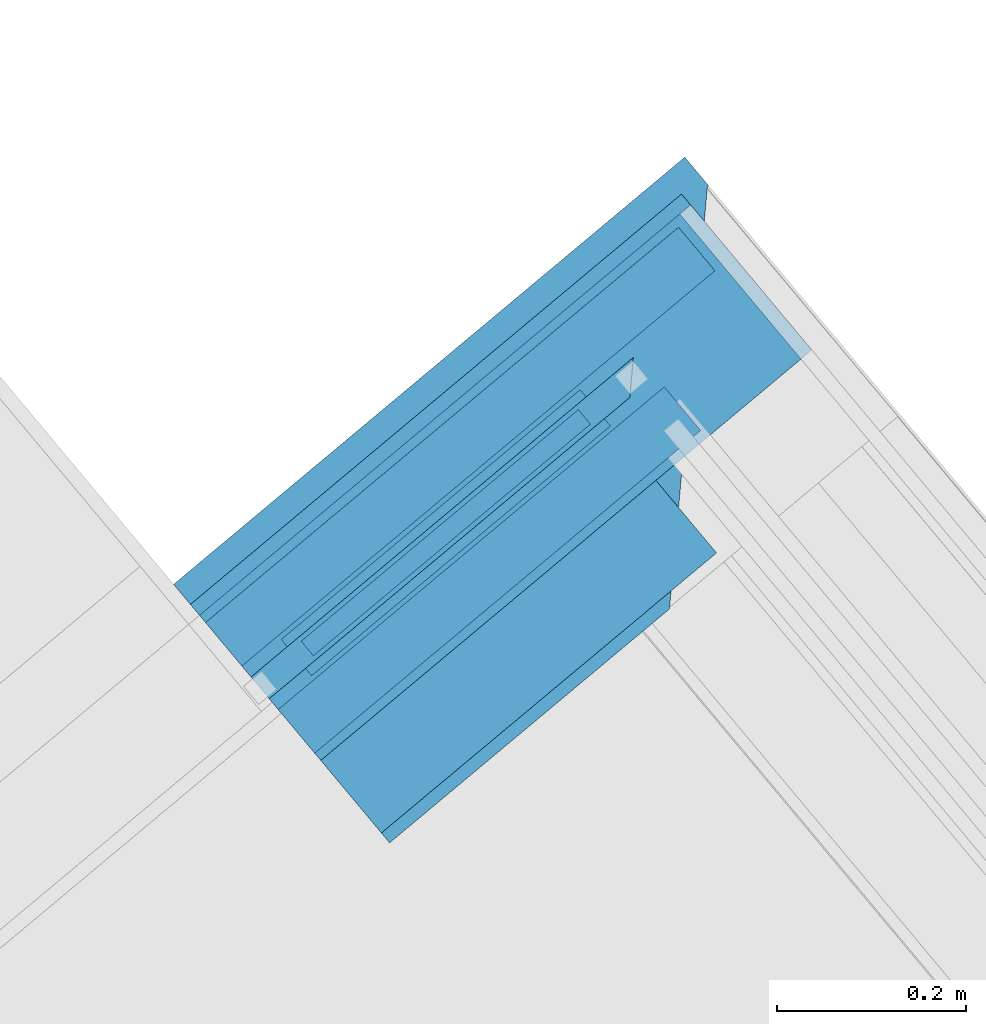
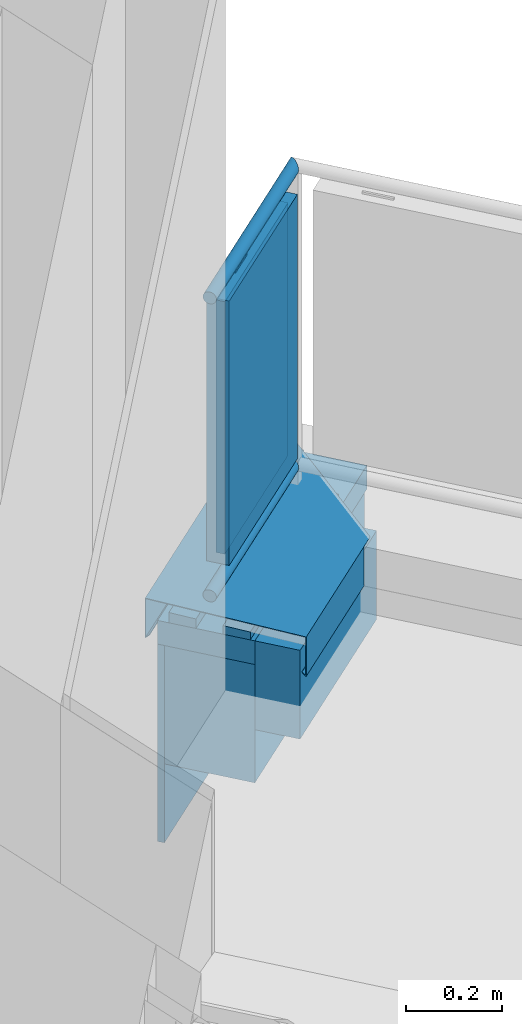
# One storey, part 46 of 53: 11 building element parts, 2 elements without a shape of their own.
"""IFC4 building model written with IfcOpenShell, lengths in metres."""

from ifc_helpers import new_model, entity, si_unit, converted_unit, derived_unit, direction, frame, origin_with_axes, place, context, subcontext, project, spatial, polygons, material, type_object, element, aggregate, save


model = new_model("IFC4")

# Units and contexts
model_context = context("Model", 3, precision=1e-05, world=origin_with_axes(), true_north=direction((0.0, 1.0)))
body_context = subcontext(model_context, "Body", "Model", "MODEL_VIEW")
ifc_project = project(units=[si_unit("LENGTHUNIT", "METRE"), si_unit("AREAUNIT", "SQUARE_METRE"), si_unit("VOLUMEUNIT", "CUBIC_METRE"), converted_unit("PLANEANGLEUNIT", "DEGREE", entity("IfcPlaneAngleMeasure", 0.0174532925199), si_unit("PLANEANGLEUNIT", "RADIAN"), dimensions=[0, 0, 0, 0, 0, 0, 0]), converted_unit("TIMEUNIT", "Year", entity("IfcTimeMeasure", 31556926.0), si_unit("TIMEUNIT", "SECOND"), dimensions=[0, 0, 1, 0, 0, 0, 0]), si_unit("MASSUNIT", "GRAM", prefix="KILO"), si_unit("THERMODYNAMICTEMPERATUREUNIT", "DEGREE_CELSIUS"), si_unit("LUMINOUSINTENSITYUNIT", "LUMEN"), si_unit("ENERGYUNIT", "JOULE", prefix="MEGA"), derived_unit("THERMALCONDUCTANCEUNIT", [(si_unit("POWERUNIT", "WATT"), 1), (si_unit("LENGTHUNIT", "METRE"), -1), (si_unit("THERMODYNAMICTEMPERATUREUNIT", "KELVIN"), -1)]), derived_unit("SPECIFICHEATCAPACITYUNIT", [(si_unit("ENERGYUNIT", "JOULE"), 1), (si_unit("MASSUNIT", "GRAM", prefix="KILO"), -1), (si_unit("THERMODYNAMICTEMPERATUREUNIT", "KELVIN"), -1)]), derived_unit("MASSDENSITYUNIT", [(si_unit("MASSUNIT", "GRAM", prefix="KILO"), 1), (si_unit("VOLUMEUNIT", "CUBIC_METRE"), -1)])], contexts=[model_context])

# Site, building, storey
site_placement = place(None, frame((-0.00153261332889, -0.00661245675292, 0.0), z_axis=(0.0, 0.0, 1.0), x_axis=(1.0, 0.0, 0.0)))
site = spatial("IfcSite", under=ifc_project, at=site_placement, Name="Gelände", CompositionType="ELEMENT")
building_placement = place(site_placement, origin_with_axes())
building = spatial("IfcBuilding", under=site, at=building_placement, Name="Gebäude", CompositionType="ELEMENT")
storey_placement = place(building_placement, frame((0.0, 0.0, 2.74), z_axis=(0.0, 0.0, 1.0), x_axis=(1.0, 0.0, 0.0)))
storey = spatial("IfcBuildingStorey", under=building, at=storey_placement, Name="OG1", CompositionType="ELEMENT", Elevation=2.74)

# Wall, building element parts
wall_type = type_object("IfcWallType", Name="Bauteil - Attika Balkon 356 x 610", PredefinedType="NOTDEFINED")
wall_placement = place(storey_placement, frame((10.2419035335, 25.5187648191, -0.2), z_axis=(0.0, 0.0, 1.0), x_axis=(0.767364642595, 0.641210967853, 0.0)))
wall = element("IfcWall", 1, at=wall_placement, inside=storey, type_object=wall_type, Name="Wand-003", PredefinedType="NOTDEFINED")
ifc_material_1 = material(Name="Zementputz")
building_element_part_1_placement = place(wall_placement, origin_with_axes())
building_element_part_1 = element("IfcBuildingElementPart", 2, at=building_element_part_1_placement, material=ifc_material_1, Name="Zementputz", PredefinedType="NOTDEFINED", context=body_context, shape_type="Tessellation", body=[
    polygons([(0.676930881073, 0.199999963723, 0.200000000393), (0.676930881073, 0.199999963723, 0.499999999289), (0.0, 0.199999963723, 0.500000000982), (0.0, 0.199999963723, 0.200000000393), (0.676930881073, 0.199999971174, 0.0), (0.6769309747, 0.214999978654, 0.0), (0.6769309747, 0.214999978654, 0.499999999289), (0.0, 0.214999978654, 0.500000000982), (0.0, 0.214999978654, 0.0), (0.0, 0.199999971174, 0.0)], [[[1, 2, 3, 4]], [[2, 1, 5, 6, 7]], [[2, 7, 8, 3]], [[3, 8, 9, 10, 4]], [[5, 1, 4, 10]], [[6, 5, 10, 9]], [[7, 6, 9, 8]]], closed=True),
])
ifc_material_2 = material(Name="Vollholz")
building_element_part_2_placement = place(wall_placement, origin_with_axes())
building_element_part_2 = element("IfcBuildingElementPart", 3, at=building_element_part_2_placement, material=ifc_material_2, Name="Vollholz", PredefinedType="NOTDEFINED", context=body_context, shape_type="Tessellation", body=[
    polygons([(0.651926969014, 0.189996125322, 0.584015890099), (0.651926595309, 0.130124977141, 0.584015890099), (0.651937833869, 0.130124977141, 0.581921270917), (0.651938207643, 0.190007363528, 0.581921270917), (0.651915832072, 0.189984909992, 0.586106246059), (0.0, 0.130124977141, 0.584015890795), (0.0, 0.130124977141, 0.560000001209), (0.652055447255, 0.130124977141, 0.559999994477), (0.651971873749, 0.130124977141, 0.575576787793), (0.651949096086, 0.130124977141, 0.57982217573), (0.651949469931, 0.190018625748, 0.57982217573), (0.651972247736, 0.190041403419, 0.575576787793), (0.652055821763, 0.190124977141, 0.559999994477), (0.0, 0.190124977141, 0.560000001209), (0.0, 0.189984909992, 0.586106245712)], [[[1, 2, 3, 4]], [[5, 2, 1]], [[3, 2, 6, 7, 8, 9, 10]], [[4, 3, 10, 11]], [[5, 1, 4, 11, 12, 13, 14, 15]], [[2, 5, 15, 6]], [[6, 15, 14, 7]], [[13, 8, 7, 14]], [[12, 9, 8, 13]], [[11, 10, 9, 12]]], closed=True),
])
ifc_material_3 = material(Name="Brettschichtholz")
building_element_part_3_placement = place(wall_placement, origin_with_axes())
building_element_part_3 = element("IfcBuildingElementPart", 4, at=building_element_part_3_placement, material=ifc_material_3, Name="Brettschichtholz", PredefinedType="NOTDEFINED", context=body_context, shape_type="Tessellation", body=[
    polygons([(0.676929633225, 0.0, 0.519273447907), (0.676929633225, 0.0, 0.56000000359), (0.0, 0.0, 0.560000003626), (0.0, 0.0, 0.499999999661), (0.676929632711, 0.0, 0.499999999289), (0.676929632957, 0.0, 0.509099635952), (0.676929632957, 0.0, 0.511410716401), (0.676929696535, 0.010142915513, 0.56000000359), (0.676930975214, 0.214999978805, 0.519273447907), (0.676930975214, 0.214999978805, 0.56000000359), (0.676930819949, 0.190124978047, 0.56000000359), (0.67693044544, 0.130124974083, 0.56000000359), (0.676930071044, 0.0701429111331, 0.56000000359), (0.0, 0.010142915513, 0.559999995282), (0.0, 0.130124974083, 0.559999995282), (0.0, 0.190124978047, 0.559999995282), (0.0, 0.214999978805, 0.560000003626), (0.0, 0.214999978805, 0.499999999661), (0.0, 0.0701429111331, 0.559999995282), (0.6769309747, 0.214999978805, 0.499999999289), (0.676930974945, 0.214999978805, 0.509099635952), (0.676930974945, 0.214999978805, 0.511410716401)], [[[1, 2, 3, 4, 5, 6, 7]], [[8, 2, 1, 9, 10, 11, 12, 13]], [[2, 8, 14, 3]], [[15, 16, 17, 18, 4, 3, 14, 19]], [[18, 20, 5, 4]], [[21, 6, 5, 20]], [[22, 7, 6, 21]], [[9, 1, 7, 22]], [[10, 9, 22, 21, 20, 18, 17]], [[11, 10, 17, 16]], [[12, 11, 16, 15]], [[13, 12, 15, 19]], [[8, 13, 19, 14]]], closed=True),
])
ifc_material_4 = material(Name="Stahlbeton")
building_element_part_4_placement = place(wall_placement, origin_with_axes())
building_element_part_4 = element("IfcBuildingElementPart", 5, at=building_element_part_4_placement, material=ifc_material_4, Name="Stahlbeton", PredefinedType="NOTDEFINED", context=body_context, shape_type="Tessellation", body=[
    polygons([(0.661929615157, 1.05296926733e-09, 0.498915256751), (0.661929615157, 1.05296926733e-09, 0.500000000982), (0.0, 1.05297104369e-09, 0.500000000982), (0.0, 1.05297104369e-09, 0.335000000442), (0.661929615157, 1.05296749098e-09, 0.334999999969), (0.661929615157, 1.05296926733e-09, 0.496604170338), (0.661930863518, 0.19999996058, 0.500000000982), (0.661930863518, 0.19999996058, 0.498915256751), (0.0, 0.19999996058, 0.500000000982), (0.0, 0.19999996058, 0.2), (0.0, 1.05297104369e-09, 0.2), (0.661929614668, 1.05296749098e-09, 0.2), (0.661930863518, 0.19999996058, 0.496604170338), (0.661930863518, 0.19999996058, 0.334999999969), (0.66193086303, 0.19999996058, 0.2)], [[[1, 2, 3, 4, 5, 6]], [[7, 2, 1, 8]], [[2, 7, 9, 3]], [[3, 9, 10, 11, 4]], [[12, 5, 4, 11]], [[13, 6, 5, 14]], [[8, 1, 6, 13]], [[7, 8, 13, 14, 15, 10, 9]], [[15, 12, 11, 10]], [[14, 5, 12, 15]]], closed=True),
])
building_element_part_5_placement = place(wall_placement, origin_with_axes())
building_element_part_5 = element("IfcBuildingElementPart", 6, at=building_element_part_5_placement, material=ifc_material_2, Name="Vollholz", PredefinedType="NOTDEFINED", context=body_context, shape_type="Tessellation", body=[
    polygons([(0.532073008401, 0.0701429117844, 0.57982217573), (0.532072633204, 0.0100326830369, 0.57982217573), (0.532072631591, 0.0100562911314, 0.575576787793), (0.53207300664, 0.0701429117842, 0.575576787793), (0.532073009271, 0.0701429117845, 0.581921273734), (0.0, 0.0100326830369, 0.579822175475), (0.0, 0.0101429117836, 0.560000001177), (0.532072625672, 0.0101429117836, 0.559999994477), (0.532073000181, 0.0701429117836, 0.559999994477), (0.0, 0.0701429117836, 0.560000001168), (0.0, 0.0701429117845, 0.581921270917)], [[[1, 2, 3, 4]], [[5, 2, 1]], [[3, 2, 6, 7, 8]], [[4, 3, 8, 9]], [[5, 1, 4, 9, 10, 11]], [[2, 5, 11, 6]], [[6, 11, 10, 7]], [[9, 8, 7, 10]]], closed=True),
])
ifc_material_5 = material(Name="EPS 1")
building_element_part_6_placement = place(wall_placement, origin_with_axes())
building_element_part_6 = element("IfcBuildingElementPart", 7, at=building_element_part_6_placement, material=ifc_material_5, Name="EPS 1", PredefinedType="NOTDEFINED", context=body_context, shape_type="Tessellation", body=[
    polygons([(0.461929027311, -0.0999999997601, 0.519273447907), (0.461929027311, -0.0999999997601, 0.560000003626), (0.0, -0.0999999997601, 0.560000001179), (0.0, -0.0999999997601, 0.334999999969), (0.461929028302, -0.0999999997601, 0.334999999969), (0.461929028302, -0.0999999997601, 0.496604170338), (0.461929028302, -0.0999999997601, 0.498915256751), (0.461929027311, -0.0999999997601, 0.499999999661), (0.461929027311, -0.0999999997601, 0.506731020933), (0.461929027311, -0.0999999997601, 0.509099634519), (0.461929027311, -0.0999999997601, 0.511410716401), (0.461929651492, 2.39911202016e-10, 0.560000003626), (0.461929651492, 2.39905872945e-10, 0.519273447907), (0.0, 2.39907649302e-10, 0.560000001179), (0.0, 2.39907649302e-10, 0.334999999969), (0.461929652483, 2.39905872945e-10, 0.334999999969), (0.461929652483, 2.39905872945e-10, 0.496604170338), (0.461929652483, 2.39905872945e-10, 0.498915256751), (0.461929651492, 2.39911202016e-10, 0.499999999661), (0.461929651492, 2.39905872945e-10, 0.506731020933), (0.461929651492, 2.39905872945e-10, 0.509099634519), (0.461929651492, 2.39905872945e-10, 0.511410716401)], [[[1, 2, 3, 4, 5, 6, 7, 8, 9, 10, 11]], [[12, 2, 1, 13]], [[2, 12, 14, 3]], [[4, 3, 14, 15]], [[16, 5, 4, 15]], [[17, 6, 5, 16]], [[18, 7, 6, 17]], [[19, 8, 7, 18]], [[20, 9, 8, 19]], [[21, 10, 9, 20]], [[22, 11, 10, 21]], [[13, 1, 11, 22]], [[12, 13, 22, 21, 20, 19, 18, 17, 16, 15, 14]]], closed=True),
])
ifc_material_6 = material(Name="Stahl")
building_element_part_7_placement = place(wall_placement, origin_with_axes())
building_element_part_7 = element("IfcBuildingElementPart", 8, at=building_element_part_7_placement, material=ifc_material_6, Name="Stahl", PredefinedType="NOTDEFINED", context=body_context, shape_type="Tessellation", body=[
    polygons([(0.349285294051, -0.112643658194, 0.496604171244), (0.0, -0.112643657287, 0.496604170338), (0.0, -0.103427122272, 0.505820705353), (0.358501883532, -0.103427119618, 0.505820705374), (0.352681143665, -0.109247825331, 0.499999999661), (0.351596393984, -0.110332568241, 0.498915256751), (0.0, -0.113600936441, 0.497561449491), (0.350242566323, -0.113600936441, 0.497561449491), (0.0, -0.113600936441, 0.597151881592), (0.0, 0.242707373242, 0.610055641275), (0.0, 0.242707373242, 0.510056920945), (0.0, 0.241750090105, 0.509099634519), (0.0, 0.232580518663, 0.518269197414), (0.0, 0.233490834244, 0.519273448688), (0.0, 0.241353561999, 0.511410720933), (0.0, 0.24135992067, 0.60865214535), (0.0, 0.23927649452, 0.608570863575), (0.0, -0.112247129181, 0.595846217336), (0.0, -0.112247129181, 0.498915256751), (0.0, -0.104431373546, 0.506731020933), (0.357497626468, -0.104431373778, 0.506731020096), (0.358501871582, -0.105341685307, 0.505820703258), (0.352681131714, -0.111162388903, 0.499999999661), (0.351596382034, -0.112247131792, 0.498915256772), (0.351596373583, -0.11360093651, 0.498915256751), (0.34968181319, -0.11360093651, 0.498915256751), (0.349681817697, -0.11360093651, 0.499999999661), (0.349681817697, -0.11360093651, 0.506731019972), (0.349681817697, -0.11360093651, 0.509099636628), (0.349681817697, -0.11360093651, 0.511410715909), (0.349681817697, -0.1136009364, 0.519273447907), (0.349681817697, -0.11360093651, 0.559999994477), (0.349681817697, -0.11360093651, 0.575576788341), (0.349681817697, -0.11360093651, 0.579822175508), (0.349681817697, -0.11360093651, 0.581921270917), (0.349681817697, -0.11360093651, 0.584015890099), (0.349681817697, -0.11360093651, 0.586106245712), (0.34968181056, -0.11360093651, 0.5958462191), (0.385751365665, -0.11360093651, 0.597151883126), (0.701207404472, 0.201708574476, 0.608570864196), (0.703290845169, 0.203952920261, 0.608652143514), (0.704638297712, 0.203952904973, 0.60865214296), (0.704638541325, 0.242707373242, 0.610055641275), (0.704638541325, 0.242707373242, 0.510056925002), (0.703681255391, 0.241750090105, 0.509099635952), (0.704638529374, 0.24079279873, 0.510056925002), (0.704638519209, 0.23943900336, 0.511410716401), (0.703284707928, 0.239438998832, 0.511410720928), (0.696426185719, 0.232580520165, 0.518269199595), (0.695421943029, 0.233490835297, 0.519273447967), (0.703284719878, 0.24135356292, 0.511410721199), (0.704638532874, 0.241353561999, 0.511410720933), (0.704638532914, 0.24135992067, 0.60865214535), (0.703291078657, 0.2413599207, 0.608652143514), (0.701207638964, 0.239276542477, 0.608570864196), (0.349681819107, -0.112247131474, 0.595846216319), (0.349681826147, -0.112247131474, 0.586106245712), (0.349681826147, -0.112247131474, 0.584015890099), (0.349681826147, -0.112247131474, 0.581921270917), (0.349681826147, -0.112247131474, 0.579822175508), (0.349681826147, -0.112247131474, 0.575576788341), (0.349681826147, -0.112247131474, 0.559999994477), (0.349681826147, -0.112247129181, 0.519273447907), (0.349681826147, -0.112247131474, 0.511410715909), (0.349681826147, -0.112247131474, 0.509099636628), (0.349681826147, -0.112247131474, 0.506731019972), (0.349681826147, -0.112247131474, 0.499999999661), (0.34968182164, -0.112247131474, 0.498915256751)], [[[1, 2, 3, 4, 5, 6]], [[7, 2, 1, 8]], [[2, 7, 9, 10, 11, 12, 13, 14, 15, 16, 17, 18, 19, 20, 3]], [[3, 20, 21, 4]], [[5, 4, 22, 23]], [[6, 5, 23, 24]], [[1, 6, 24, 25, 8]], [[9, 7, 8, 25, 26, 27, 28, 29, 30, 31, 32, 33, 34, 35, 36, 37, 38, 39]], [[10, 9, 39, 40, 41, 42, 43]], [[11, 10, 43, 44]], [[12, 11, 44, 45]], [[13, 12, 45, 46, 47, 48, 49]], [[14, 13, 49, 50]], [[15, 14, 50, 51]], [[16, 15, 51, 52, 53, 54]], [[17, 16, 54, 55]], [[56, 18, 17, 55]], [[19, 18, 56, 57, 58, 59, 60, 61, 62, 63, 64, 65, 66, 67, 68]], [[20, 19, 68, 24, 23, 22, 21]], [[4, 21, 22]], [[68, 26, 25, 24]], [[68, 67, 27, 26]], [[28, 27, 67, 66]], [[29, 28, 66, 65]], [[30, 29, 65, 64]], [[63, 31, 30, 64]], [[31, 63, 62, 32]], [[33, 32, 62, 61]], [[34, 33, 61, 60]], [[35, 34, 60, 59]], [[36, 35, 59, 58]], [[37, 36, 58, 57]], [[57, 56, 38, 37]], [[38, 56, 55, 40, 39]], [[40, 55, 54, 41]], [[41, 54, 53, 42]], [[43, 42, 53, 52, 47, 46, 44]], [[46, 45, 44]], [[48, 47, 52, 51]], [[51, 50, 49, 48]]], closed=True),
])
aggregate(wall, [building_element_part_1, building_element_part_2, building_element_part_3, building_element_part_4, building_element_part_5, building_element_part_6, building_element_part_7])

# Space
space_placement = place(storey_placement, frame((9.48027034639, 24.9670510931, 0.22), z_axis=(0.0, 0.0, 1.0), x_axis=(0.641209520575, -0.76736585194, 0.0)))
space = spatial("IfcSpace", under=storey, at=space_placement, CompositionType="ELEMENT", PredefinedType="NOTDEFINED")

# Railing, building element parts
railing_type = type_object("IfcRailingType", Name="Geländerart", PredefinedType="NOTDEFINED")
railing_placement = place(space_placement, frame((5.69466912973, 0.0, 0.16), z_axis=(0.0, 0.0, 1.0), x_axis=(0.641209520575, 0.76736585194, 0.0)))
railing = element("IfcRailing", 9, at=railing_placement, inside=space, type_object=railing_type, Name="Geländer - 001", PredefinedType="NOTDEFINED")
ifc_material_7 = material(Name="Aluminium")
building_element_part_8_placement = place(railing_placement, origin_with_axes())
building_element_part_8 = element("IfcBuildingElementPart", 10, at=building_element_part_8_placement, material=ifc_material_7, Name="Aluminium", PredefinedType="NOTDEFINED", context=body_context, shape_type="Tessellation", body=[
    polygons([(-2.5630191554, 5.30547143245, 0.825), (-2.56299040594, 5.30579242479, 0.827604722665), (-2.94449198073, 4.9870091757, 0.827604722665), (-2.9443458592, 4.9868343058, 0.825), (-2.56299040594, 5.30579242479, 0.822395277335), (-2.56290503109, 5.30674564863, 0.81986969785), (-2.56276562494, 5.30830214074, 0.8175), (-2.56257642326, 5.31041460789, 0.815358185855), (-2.56234317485, 5.31301886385, 0.813509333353), (-2.56207296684, 5.31603577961, 0.812009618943), (-2.56177400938, 5.3193736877, 0.810904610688), (-2.56145538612, 5.3229311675, 0.810227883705), (-2.56112677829, 5.32660012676, 0.81), (-2.56079817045, 5.33026908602, 0.810227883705), (-2.5604795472, 5.33382656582, 0.810904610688), (-2.56018058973, 5.33716447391, 0.812009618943), (-2.55991038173, 5.34018138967, 0.813509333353), (-2.55967713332, 5.34278564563, 0.815358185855), (-2.55948793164, 5.34489811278, 0.8175), (-2.55934852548, 5.34645460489, 0.81986969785), (-2.55926315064, 5.34740782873, 0.822395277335), (-2.55923440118, 5.34772882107, 0.825), (-2.55926315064, 5.34740782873, 0.827604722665), (-2.55934852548, 5.34645460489, 0.83013030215), (-2.55948793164, 5.34489811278, 0.8325), (-2.55967713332, 5.34278564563, 0.834641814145), (-2.55991038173, 5.34018138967, 0.836490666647), (-2.56018058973, 5.33716447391, 0.837990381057), (-2.5604795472, 5.33382656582, 0.839095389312), (-2.56079817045, 5.33026908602, 0.839772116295), (-2.56112677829, 5.32660012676, 0.84), (-2.56145538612, 5.3229311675, 0.839772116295), (-2.56177400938, 5.3193736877, 0.839095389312), (-2.56207296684, 5.31603577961, 0.837990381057), (-2.56234317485, 5.31301886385, 0.836490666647), (-2.56257642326, 5.31041460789, 0.834641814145), (-2.56276562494, 5.30830214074, 0.8325), (-2.56290503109, 5.30674564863, 0.83013030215), (-2.94492590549, 4.98752847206, 0.83013030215), (-2.9456344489, 4.98837641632, 0.8325), (-2.94659608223, 4.98952724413, 0.834641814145), (-2.94778158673, 4.99094598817, 0.836490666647), (-2.94915494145, 4.99258954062, 0.837990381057), (-2.95067441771, 4.99440796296, 0.839095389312), (-2.95229384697, 4.99634600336, 0.839772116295), (-2.95396402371, 4.99834477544, 0.84), (-2.95563420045, 5.00034354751, 0.839772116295), (-2.95725362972, 5.00228158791, 0.839095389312), (-2.95877310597, 5.00410001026, 0.837990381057), (-2.96014646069, 5.0057435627, 0.836490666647), (-2.9613319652, 5.00716230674, 0.834641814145), (-2.96229359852, 5.00831313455, 0.8325), (-2.96300214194, 5.00916107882, 0.83013030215), (-2.9634360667, 5.00968037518, 0.827604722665), (-2.96358218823, 5.00985524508, 0.825), (-2.9634360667, 5.00968037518, 0.822395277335), (-2.96300214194, 5.00916107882, 0.81986969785), (-2.96229359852, 5.00831313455, 0.8175), (-2.9613319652, 5.00716230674, 0.815358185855), (-2.96014646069, 5.0057435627, 0.813509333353), (-2.95877310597, 5.00410001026, 0.812009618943), (-2.95725362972, 5.00228158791, 0.810904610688), (-2.95563420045, 5.00034354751, 0.810227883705), (-2.95396402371, 4.99834477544, 0.81), (-2.95229384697, 4.99634600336, 0.810227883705), (-2.95067441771, 4.99440796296, 0.810904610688), (-2.94915494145, 4.99258954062, 0.812009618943), (-2.94778158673, 4.99094598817, 0.813509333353), (-2.94659608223, 4.98952724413, 0.815358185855), (-2.9456344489, 4.98837641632, 0.8175), (-2.94492590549, 4.98752847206, 0.81986969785), (-2.94449198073, 4.9870091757, 0.822395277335)], [[[1, 2, 3, 4]], [[1, 5, 6, 7, 8, 9, 10, 11, 12, 13, 14, 15, 16, 17, 18, 19, 20, 21, 22, 23, 24, 25, 26, 27, 28, 29, 30, 31, 32, 33, 34, 35, 36, 37, 38, 2]], [[2, 38, 39, 3]], [[4, 3, 39, 40, 41, 42, 43, 44, 45, 46, 47, 48, 49, 50, 51, 52, 53, 54, 55, 56, 57, 58, 59, 60, 61, 62, 63, 64, 65, 66, 67, 68, 69, 70, 71, 72]], [[5, 1, 4, 72]], [[6, 5, 72, 71]], [[7, 6, 71, 70]], [[8, 7, 70, 69]], [[9, 8, 69, 68]], [[10, 9, 68, 67]], [[11, 10, 67, 66]], [[12, 11, 66, 65]], [[13, 12, 65, 64]], [[14, 13, 64, 63]], [[15, 14, 63, 62]], [[16, 15, 62, 61]], [[17, 16, 61, 60]], [[18, 17, 60, 59]], [[19, 18, 59, 58]], [[20, 19, 58, 57]], [[21, 20, 57, 56]], [[22, 21, 56, 55]], [[23, 22, 55, 54]], [[24, 23, 54, 53]], [[25, 24, 53, 52]], [[26, 25, 52, 51]], [[27, 26, 51, 50]], [[28, 27, 50, 49]], [[29, 28, 49, 48]], [[30, 29, 48, 47]], [[31, 30, 47, 46]], [[32, 31, 46, 45]], [[33, 32, 45, 44]], [[34, 33, 44, 43]], [[35, 34, 43, 42]], [[36, 35, 42, 41]], [[37, 36, 41, 40]], [[38, 37, 40, 39]]], closed=True),
])
building_element_part_9_placement = place(railing_placement, origin_with_axes())
building_element_part_9 = element("IfcBuildingElementPart", 11, at=building_element_part_9_placement, material=ifc_material_7, Name="Aluminium", PredefinedType="NOTDEFINED", context=body_context, shape_type="Tessellation", body=[
    polygons([(-2.5630191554, 5.30547143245, 0.07), (-2.56299040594, 5.30579242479, 0.072604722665), (-2.94449198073, 4.9870091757, 0.072604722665), (-2.9443458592, 4.9868343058, 0.07), (-2.56299040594, 5.30579242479, 0.067395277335), (-2.56290503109, 5.30674564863, 0.0648696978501), (-2.56276562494, 5.30830214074, 0.0625), (-2.56257642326, 5.31041460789, 0.0603581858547), (-2.56234317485, 5.31301886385, 0.0585093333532), (-2.56207296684, 5.31603577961, 0.0570096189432), (-2.56177400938, 5.3193736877, 0.0559046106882), (-2.56145538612, 5.3229311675, 0.0552278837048), (-2.56112677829, 5.32660012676, 0.055), (-2.56079817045, 5.33026908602, 0.0552278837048), (-2.5604795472, 5.33382656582, 0.0559046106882), (-2.56018058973, 5.33716447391, 0.0570096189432), (-2.55991038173, 5.34018138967, 0.0585093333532), (-2.55967713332, 5.34278564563, 0.0603581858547), (-2.55948793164, 5.34489811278, 0.0625), (-2.55934852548, 5.34645460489, 0.0648696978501), (-2.55926315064, 5.34740782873, 0.067395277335), (-2.55923440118, 5.34772882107, 0.07), (-2.55926315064, 5.34740782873, 0.072604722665), (-2.55934852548, 5.34645460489, 0.0751303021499), (-2.55948793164, 5.34489811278, 0.0775), (-2.55967713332, 5.34278564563, 0.0796418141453), (-2.55991038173, 5.34018138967, 0.0814906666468), (-2.56018058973, 5.33716447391, 0.0829903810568), (-2.5604795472, 5.33382656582, 0.0840953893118), (-2.56079817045, 5.33026908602, 0.0847721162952), (-2.56112677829, 5.32660012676, 0.085), (-2.56145538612, 5.3229311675, 0.0847721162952), (-2.56177400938, 5.3193736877, 0.0840953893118), (-2.56207296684, 5.31603577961, 0.0829903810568), (-2.56234317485, 5.31301886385, 0.0814906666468), (-2.56257642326, 5.31041460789, 0.0796418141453), (-2.56276562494, 5.30830214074, 0.0775), (-2.56290503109, 5.30674564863, 0.0751303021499), (-2.94492590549, 4.98752847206, 0.0751303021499), (-2.9456344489, 4.98837641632, 0.0775), (-2.94659608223, 4.98952724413, 0.0796418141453), (-2.94778158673, 4.99094598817, 0.0814906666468), (-2.94915494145, 4.99258954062, 0.0829903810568), (-2.95067441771, 4.99440796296, 0.0840953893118), (-2.95229384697, 4.99634600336, 0.0847721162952), (-2.95396402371, 4.99834477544, 0.085), (-2.95563420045, 5.00034354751, 0.0847721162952), (-2.95725362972, 5.00228158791, 0.0840953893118), (-2.95877310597, 5.00410001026, 0.0829903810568), (-2.96014646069, 5.0057435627, 0.0814906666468), (-2.9613319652, 5.00716230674, 0.0796418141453), (-2.96229359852, 5.00831313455, 0.0775), (-2.96300214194, 5.00916107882, 0.0751303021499), (-2.9634360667, 5.00968037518, 0.072604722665), (-2.96358218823, 5.00985524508, 0.07), (-2.9634360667, 5.00968037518, 0.067395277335), (-2.96300214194, 5.00916107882, 0.0648696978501), (-2.96229359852, 5.00831313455, 0.0625), (-2.9613319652, 5.00716230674, 0.0603581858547), (-2.96014646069, 5.0057435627, 0.0585093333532), (-2.95877310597, 5.00410001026, 0.0570096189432), (-2.95725362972, 5.00228158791, 0.0559046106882), (-2.95563420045, 5.00034354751, 0.0552278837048), (-2.95396402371, 4.99834477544, 0.055), (-2.95229384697, 4.99634600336, 0.0552278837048), (-2.95067441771, 4.99440796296, 0.0559046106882), (-2.94915494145, 4.99258954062, 0.0570096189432), (-2.94778158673, 4.99094598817, 0.0585093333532), (-2.94659608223, 4.98952724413, 0.0603581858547), (-2.9456344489, 4.98837641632, 0.0625), (-2.94492590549, 4.98752847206, 0.0648696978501), (-2.94449198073, 4.9870091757, 0.067395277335)], [[[1, 2, 3, 4]], [[1, 5, 6, 7, 8, 9, 10, 11, 12, 13, 14, 15, 16, 17, 18, 19, 20, 21, 22, 23, 24, 25, 26, 27, 28, 29, 30, 31, 32, 33, 34, 35, 36, 37, 38, 2]], [[2, 38, 39, 3]], [[4, 3, 39, 40, 41, 42, 43, 44, 45, 46, 47, 48, 49, 50, 51, 52, 53, 54, 55, 56, 57, 58, 59, 60, 61, 62, 63, 64, 65, 66, 67, 68, 69, 70, 71, 72]], [[5, 1, 4, 72]], [[6, 5, 72, 71]], [[7, 6, 71, 70]], [[8, 7, 70, 69]], [[9, 8, 69, 68]], [[10, 9, 68, 67]], [[11, 10, 67, 66]], [[12, 11, 66, 65]], [[13, 12, 65, 64]], [[14, 13, 64, 63]], [[15, 14, 63, 62]], [[16, 15, 62, 61]], [[17, 16, 61, 60]], [[18, 17, 60, 59]], [[19, 18, 59, 58]], [[20, 19, 58, 57]], [[21, 20, 57, 56]], [[22, 21, 56, 55]], [[23, 22, 55, 54]], [[24, 23, 54, 53]], [[25, 24, 53, 52]], [[26, 25, 52, 51]], [[27, 26, 51, 50]], [[28, 27, 50, 49]], [[29, 28, 49, 48]], [[30, 29, 48, 47]], [[31, 30, 47, 46]], [[32, 31, 46, 45]], [[33, 32, 45, 44]], [[34, 33, 44, 43]], [[35, 34, 43, 42]], [[36, 35, 42, 41]], [[37, 36, 41, 40]], [[38, 37, 40, 39]]], closed=True),
])
ifc_material_8 = material(Name="Profilit")
building_element_part_10_placement = place(railing_placement, origin_with_axes())
building_element_part_10 = element("IfcBuildingElementPart", 12, at=building_element_part_10_placement, material=ifc_material_8, Name="Profilit", PredefinedType="NOTDEFINED", context=body_context, shape_type="Tessellation", body=[
    polygons([(-2.89767321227, 5.03234984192, 0.135), (-2.60459337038, 5.27724776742, 0.135), (-2.60459337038, 5.27724776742, 0.775), (-2.89767321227, 5.03234984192, 0.775), (-2.61741758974, 5.29259506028, 0.135), (-2.91049743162, 5.04769713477, 0.135), (-2.61741758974, 5.29259506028, 0.775), (-2.91049743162, 5.04769713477, 0.775)], [[[1, 2, 3, 4]], [[5, 2, 1, 6]], [[7, 3, 2, 5]], [[4, 3, 7, 8]], [[1, 4, 8, 6]], [[7, 5, 6, 8]]], closed=True),
])
building_element_part_11_placement = place(railing_placement, origin_with_axes())
building_element_part_11 = element("IfcBuildingElementPart", 13, at=building_element_part_11_placement, material=ifc_material_7, Name="Aluminium", PredefinedType="NOTDEFINED", context=body_context, shape_type="Tessellation", body=[
    polygons([(-2.67462844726, 5.22850006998, 0.12), (-2.72834397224, 5.18361530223, 0.12), (-2.72834397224, 5.18361530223, 0.095), (-2.67462844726, 5.22850006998, 0.095), (-2.6778345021, 5.23233689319, 0.12), (-2.73155002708, 5.18745212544, 0.12), (-2.73155002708, 5.18745212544, 0.095), (-2.6778345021, 5.23233689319, 0.095)], [[[1, 2, 3, 4]], [[5, 6, 2, 1]], [[2, 6, 7, 3]], [[4, 3, 7, 8]], [[1, 4, 8, 5]], [[8, 7, 6, 5]]], closed=True),
    polygons([(-2.8372562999, 5.09260800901, 0.79), (-2.78354077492, 5.13749277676, 0.79), (-2.78354077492, 5.13749277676, 0.795), (-2.8372562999, 5.09260800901, 0.795), (-2.84046235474, 5.09644483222, 0.79), (-2.78674682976, 5.14132959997, 0.79), (-2.78674682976, 5.14132959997, 0.795), (-2.84046235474, 5.09644483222, 0.795)], [[[1, 2, 3, 4]], [[5, 6, 2, 1]], [[2, 6, 7, 3]], [[4, 3, 7, 8]], [[1, 4, 8, 5]], [[8, 7, 6, 5]]], closed=True),
    polygons([(-2.61552528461, 5.31372369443, 0.12), (-2.58346473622, 5.2753554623, 0.12), (-2.89956551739, 5.01122120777, 0.12), (-2.93162606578, 5.0495894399, 0.12), (-2.63087257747, 5.30089947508, 0.14), (-2.62125441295, 5.28938900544, 0.14), (-2.61741758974, 5.29259506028, 0.135), (-2.60459337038, 5.27724776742, 0.135), (-2.60843019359, 5.27404171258, 0.14), (-2.59881202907, 5.26253124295, 0.14), (-2.88421822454, 5.02404542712, 0.14), (-2.88421822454, 5.02404542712, 0.77), (-2.59881202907, 5.26253124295, 0.77), (-2.59881202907, 5.26253124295, 0.14), (-2.58346473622, 5.2753554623, 0.12), (-2.58346473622, 5.2753554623, 0.79), (-2.89956551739, 5.01122120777, 0.79), (-2.93162606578, 5.0495894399, 0.79), (-2.61552528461, 5.31372369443, 0.79), (-2.61552528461, 5.31372369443, 0.12), (-2.63087257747, 5.30089947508, 0.14), (-2.63087257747, 5.30089947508, 0.77), (-2.91627877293, 5.06241365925, 0.77), (-2.91627877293, 5.06241365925, 0.14), (-2.90666060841, 5.05090318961, 0.14), (-2.90666060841, 5.05090318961, 0.77), (-2.62125441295, 5.28938900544, 0.77), (-2.62125441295, 5.28938900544, 0.14), (-2.61741758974, 5.29259506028, 0.135), (-2.61741758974, 5.29259506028, 0.775), (-2.91049743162, 5.04769713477, 0.775), (-2.91049743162, 5.04769713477, 0.135), (-2.89767321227, 5.03234984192, 0.135), (-2.89767321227, 5.03234984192, 0.775), (-2.60459337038, 5.27724776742, 0.775), (-2.60459337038, 5.27724776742, 0.135), (-2.60843019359, 5.27404171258, 0.14), (-2.60843019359, 5.27404171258, 0.77), (-2.89383638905, 5.03555589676, 0.77), (-2.89383638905, 5.03555589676, 0.14)], [[[1, 2, 3, 4]], [[1, 5, 6, 7, 8, 9, 10, 2]], [[2, 10, 11, 12, 13, 14, 15, 16, 17, 3]], [[4, 3, 17, 18]], [[5, 1, 4, 18, 19, 20, 21, 22, 23, 24]], [[6, 5, 24, 25]], [[7, 6, 25, 26, 27, 28, 29, 30, 31, 32]], [[8, 7, 32, 33]], [[9, 8, 33, 34, 35, 36, 37, 38, 39, 40]], [[10, 9, 40, 11]], [[11, 40, 39, 12]], [[12, 39, 38, 13]], [[13, 38, 37, 14]], [[20, 15, 14, 37, 36, 29, 28, 21]], [[19, 16, 15, 20]], [[18, 17, 16, 19]], [[27, 22, 21, 28]], [[26, 23, 22, 27]], [[25, 24, 23, 26]], [[35, 30, 29, 36]], [[34, 31, 30, 35]], [[33, 32, 31, 34]]], closed=True),
])
aggregate(railing, [building_element_part_8, building_element_part_9, building_element_part_10, building_element_part_11])

save(model, "model.ifc")
